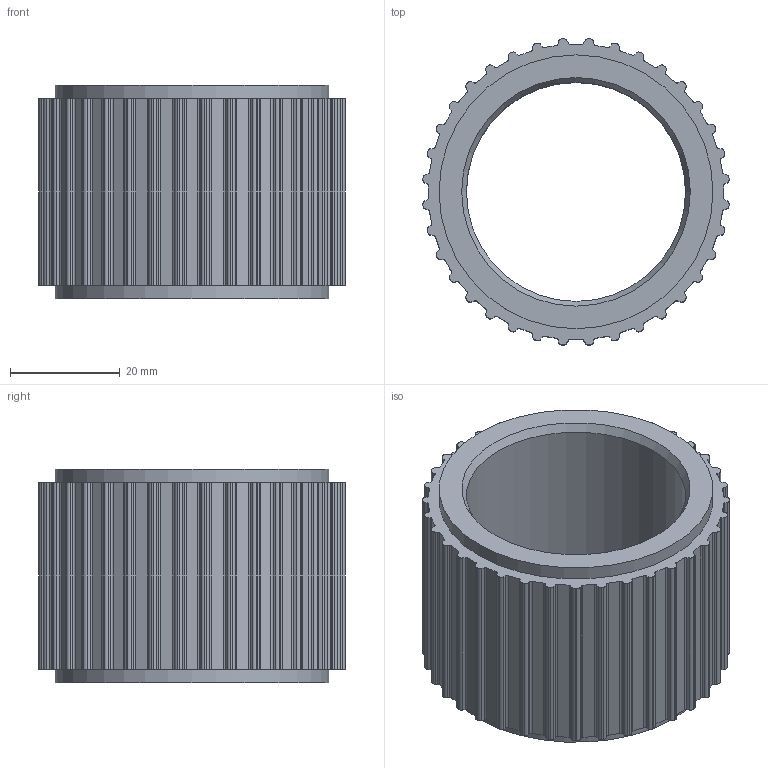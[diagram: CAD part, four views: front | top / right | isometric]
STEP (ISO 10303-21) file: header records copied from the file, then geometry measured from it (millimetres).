
FILE_DESCRIPTION(('STEP AP203'), '1');
FILE_NAME('眐珆1801.01.12.01.103 - 崹魤', '', ('UNSPECIFIED'), ('UNSPECIFIED'), 'C3D Converter', 'C3D Toolkit', '');
FILE_SCHEMA(('CONFIG_CONTROL_DESIGN'));
Length unit declared in the file: millimetre
Products named in the file (1): ТППФ1801.01.12.01.103
Bounding box: 55.89 x 55.89 x 39 mm (x, y, z)
Volume: 40328.6 mm3; surface area: 14903.9 mm2
Topology: 1 solids, 1 shells, 297 faces, 877 edges, 584 vertices
Faces by surface type: cylinder 183, plane 112, cone 2
Full cylindrical faces by diameter (mm): 40 x1, 50 x2
Entity records: 12458 total; most frequent: DIRECTION 1836, CARTESIAN_POINT 1754, ORIENTED_EDGE 1744, EDGE_CURVE 872, AXIS2_PLACEMENT_3D 666, VERTEX_POINT 584, LINE 504, VECTOR 504
